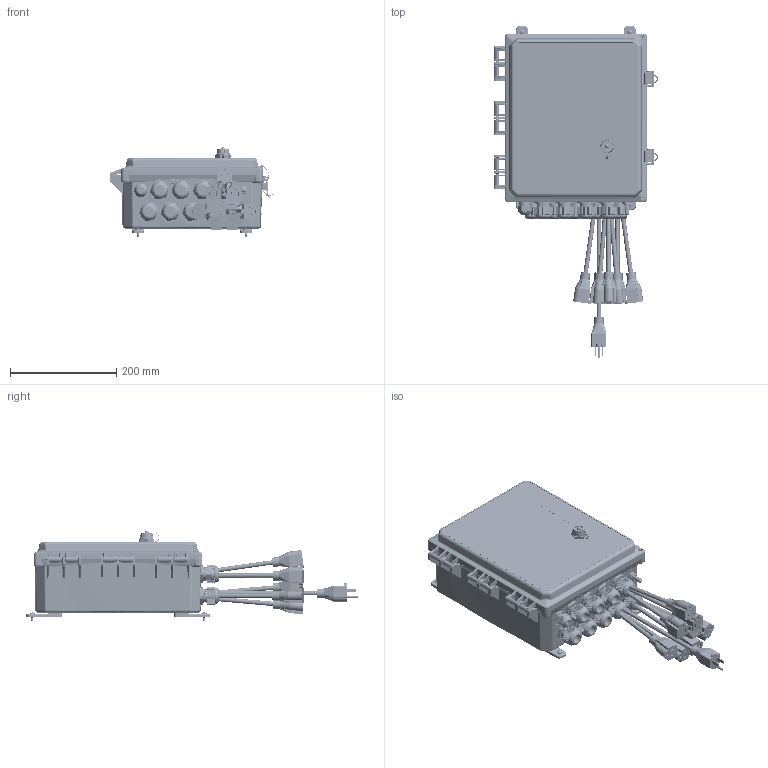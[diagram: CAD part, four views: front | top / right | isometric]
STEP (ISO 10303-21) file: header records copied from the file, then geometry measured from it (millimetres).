
FILE_DESCRIPTION (( 'STEP AP203' ), '1' );
FILE_NAME ('W900 Shell With Pigtails.STEP', '2018-03-09T20:12:46', ( '' ), ( '' ), 'SwSTEP 2.0', 'SolidWorks 2016', '' );
FILE_SCHEMA (( 'CONFIG_CONTROL_DESIGN' ));
Length unit declared in the file: millimetre
Products named in the file (16): ISA0006; ISA0006_2; IMS0034; IMS0037_Cord1; 103860_Cord1; IMS0035_91500A537; 102907; W900 Shell; W900 Shell With Pigtails; 102903_102903; IMS0036_91772A829; 103861; ISA0006_3; 102906
Assembly tree (37 placements, depth 4):
  W900 Shell With Pigtails
    W900 Shell
      W900 Shell
      IMS0034  x4
      IMS0035_91500A537  x4
      IMS0036_91772A829  x4
      ISA0006
        102903_102903
        102906
        103860_Cord1  x3
        103861
      ISA0006_2
        102903_102903
        102906
        103860_Cord1  x2
        103861
      ISA0006_3
        102907
        102903_102903
        102906
        103860_Cord1  x3
        103861
      IMS0037_Cord1
    102907
Bounding box: 309.82 x 625.91 x 169.61 mm (x, y, z)
Volume: 417911.5 mm3; surface area: 1085360.8 mm2
Topology: 32 solids, 84 shells, 12692 faces, 33698 edges, 21332 vertices
Faces by surface type: plane 5708, cylinder 3464, bspline 2738, cone 679, torus 84, sphere 19
Entity records: 526989 total; most frequent: CARTESIAN_POINT 277921, ORIENTED_EDGE 61625, DIRECTION 36805, EDGE_CURVE 30815, VERTEX_POINT 19543, B_SPLINE_CURVE_WITH_KNOTS 13453, AXIS2_PLACEMENT_3D 12851, EDGE_LOOP 12166
